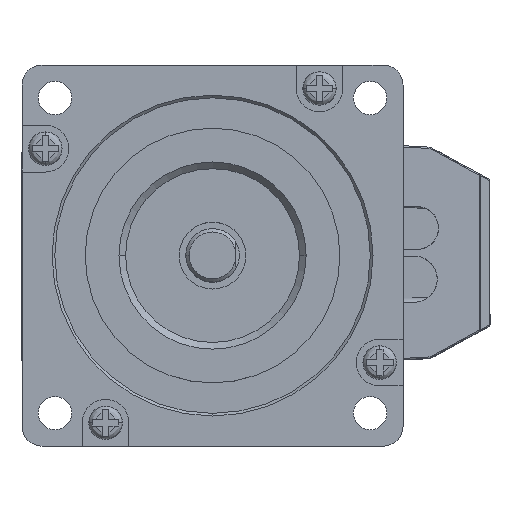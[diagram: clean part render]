
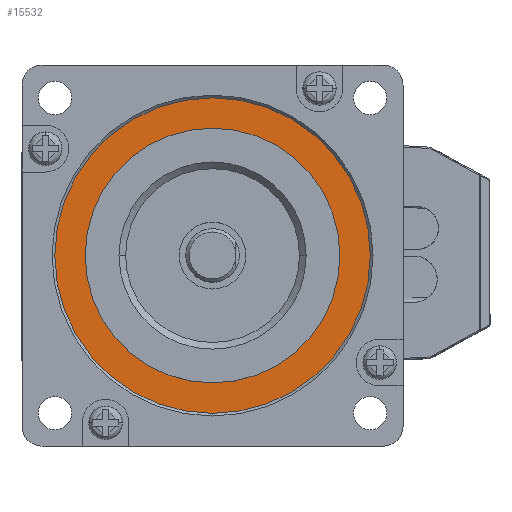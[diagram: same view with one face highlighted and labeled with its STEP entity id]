
A CAD part, top view. The second image highlights one B-rep face of the part: STEP entity #15532.
In plain terms, the highlighted planar face has unit normal (0, 0, 1).
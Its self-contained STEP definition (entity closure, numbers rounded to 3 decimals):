
#191 = CARTESIAN_POINT ( 'NONE',  ( -19.05, 0., 11.6 ) ) ;
#341 = AXIS2_PLACEMENT_3D ( 'NONE', #2339, #11126, #3601 ) ;
#424 = VERTEX_POINT ( 'NONE', #2709 ) ;
#697 = VERTEX_POINT ( 'NONE', #11679 ) ;
#1022 = EDGE_LOOP ( 'NONE', ( #15648, #6133 ) ) ;
#1178 = CARTESIAN_POINT ( 'NONE',  ( 19.05, 0., 11.6 ) ) ;
#1337 = DIRECTION ( 'NONE',  ( 0., 0., 1. ) ) ;
#2339 = CARTESIAN_POINT ( 'NONE',  ( 0., 0., 11.6 ) ) ;
#2709 = CARTESIAN_POINT ( 'NONE',  ( 0., 23.6, 11.6 ) ) ;
#3145 = CARTESIAN_POINT ( 'NONE',  ( 0., 0., 11.6 ) ) ;
#3552 = ORIENTED_EDGE ( 'NONE', *, *, #4264, .F. ) ;
#3601 = DIRECTION ( 'NONE',  ( 1., 0., 0. ) ) ;
#4090 = AXIS2_PLACEMENT_3D ( 'NONE', #14024, #6448, #15299 ) ;
#4264 = EDGE_CURVE ( 'NONE', #7595, #9573, #12211, .T. ) ;
#4396 = DIRECTION ( 'NONE',  ( 0., 0., 1. ) ) ;
#4757 = AXIS2_PLACEMENT_3D ( 'NONE', #8842, #1337, #10113 ) ;
#5541 = FACE_OUTER_BOUND ( 'NONE', #1022, .T. ) ;
#6079 = CARTESIAN_POINT ( 'NONE',  ( 0., 0., 11.6 ) ) ;
#6133 = ORIENTED_EDGE ( 'NONE', *, *, #6870, .T. ) ;
#6448 = DIRECTION ( 'NONE',  ( 0., 0., 1. ) ) ;
#6576 = EDGE_CURVE ( 'NONE', #9573, #7595, #9762, .T. ) ;
#6870 = EDGE_CURVE ( 'NONE', #424, #697, #13171, .T. ) ;
#7345 = DIRECTION ( 'NONE',  ( 1., 0., 0. ) ) ;
#7595 = VERTEX_POINT ( 'NONE', #191 ) ;
#8396 = AXIS2_PLACEMENT_3D ( 'NONE', #3145, #4396, #13201 ) ;
#8408 = CIRCLE ( 'NONE', #4757, 23.6 ) ;
#8842 = CARTESIAN_POINT ( 'NONE',  ( 0., 0., 11.6 ) ) ;
#9262 = FACE_BOUND ( 'NONE', #13203, .T. ) ;
#9573 = VERTEX_POINT ( 'NONE', #1178 ) ;
#9762 = CIRCLE ( 'NONE', #11122, 19.05 ) ;
#10113 = DIRECTION ( 'NONE',  ( 0., -1., 0. ) ) ;
#10655 = PLANE ( 'NONE',  #8396 ) ;
#10932 = EDGE_CURVE ( 'NONE', #697, #424, #8408, .T. ) ;
#11122 = AXIS2_PLACEMENT_3D ( 'NONE', #6079, #14909, #7345 ) ;
#11126 = DIRECTION ( 'NONE',  ( 0., 0., 1. ) ) ;
#11679 = CARTESIAN_POINT ( 'NONE',  ( 0., -23.6, 11.6 ) ) ;
#12211 = CIRCLE ( 'NONE', #341, 19.05 ) ;
#13171 = CIRCLE ( 'NONE', #4090, 23.6 ) ;
#13201 = DIRECTION ( 'NONE',  ( 1., 0., 0. ) ) ;
#13203 = EDGE_LOOP ( 'NONE', ( #16193, #3552 ) ) ;
#14024 = CARTESIAN_POINT ( 'NONE',  ( 0., 0., 11.6 ) ) ;
#14909 = DIRECTION ( 'NONE',  ( 0., 0., 1. ) ) ;
#15299 = DIRECTION ( 'NONE',  ( 0., -1., 0. ) ) ;
#15532 = ADVANCED_FACE ( 'NONE', ( #5541, #9262 ), #10655, .T. ) ;
#15648 = ORIENTED_EDGE ( 'NONE', *, *, #10932, .T. ) ;
#16193 = ORIENTED_EDGE ( 'NONE', *, *, #6576, .F. ) ;
